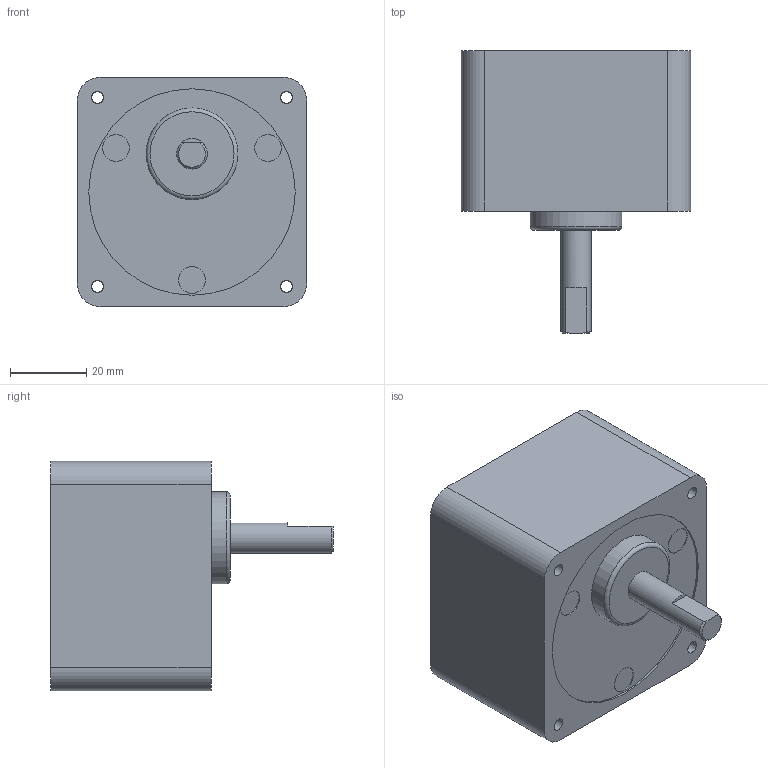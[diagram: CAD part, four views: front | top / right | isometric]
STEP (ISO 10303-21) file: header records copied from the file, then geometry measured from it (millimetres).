
FILE_DESCRIPTION((''),'2;1');
FILE_NAME('\\Servert1600\THREEPEACE\2015homepage\STP\HP-Data_Gearhead_3D_STEP\CM-4.stp','2016-11-17T11:57:24',('Administrator'),(''),'Autodesk Inventor 2010','Autodesk Inventor 2010','');
FILE_SCHEMA(('AUTOMOTIVE_DESIGN { 1 0 10303 214 1 1 1 1 }'));
Length unit declared in the file: millimetre
Products named in the file (1): CM-4-ギアヘッド単品
Bounding box: 60 x 74 x 60 mm (x, y, z)
Volume: 144383.1 mm3; surface area: 20014.1 mm2
Topology: 1 solids, 1 shells, 40 faces, 92 edges, 61 vertices
Faces by surface type: plane 15, bspline 12, cylinder 11, cone 1, torus 1
Full cylindrical faces by diameter (mm): 7 x3, 8 x1, 24 x1, 54 x2
Entity records: 1164 total; most frequent: CARTESIAN_POINT 364, DIRECTION 160, ORIENTED_EDGE 126, EDGE_LOOP 75, AXIS2_PLACEMENT_3D 70, EDGE_CURVE 63, VERTEX_POINT 52, CIRCLE 41
